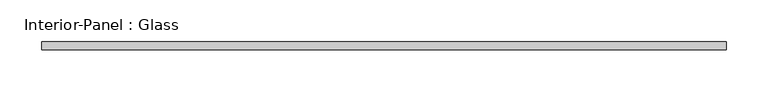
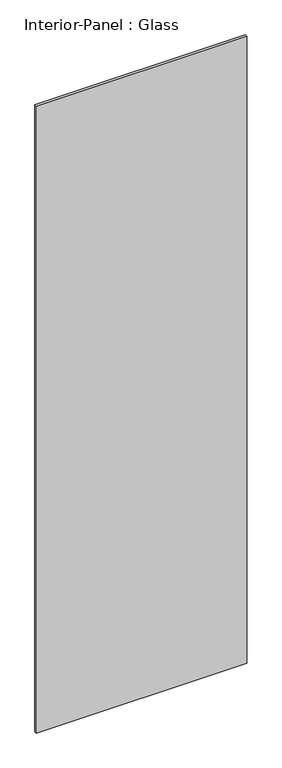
"""IFC4 building model written with IfcOpenShell, lengths in millimetres: plate geometry, Interior-Panel : Glass."""

from ifc_helpers import new_model, si_unit, origin, origin_with_axes, place, context, project, spatial, polyline, outline, extrude, source, transform, mapped, element, save


def interior_panel_glass_b2a39446(model_context):
    return source(origin(), model_context, "Body", "SweptSolid", [
        extrude(outline(polyline([(412.5, 50.0), (412.5, 40.0), (-412.5, 40.0), (-412.5, 50.0), (412.5, 50.0)])), origin_with_axes(), (0.0, 0.0, 1.0), 2600.0),
    ])


if __name__ == "__main__":
    model = new_model("IFC4")
    model_context = context("Model", 3, world=origin())
    ifc_project = project(units=[si_unit("LENGTHUNIT", "METRE", prefix="MILLI")], contexts=[model_context])
    site = spatial("IfcSite", under=ifc_project)
    building = spatial("IfcBuilding", under=site)
    placement = place(None, origin())
    interior_panel_glass_shape = interior_panel_glass_b2a39446(model_context)
    element("IfcPlate", 1, ObjectType="Interior-Panel : Glass", at=placement, inside=building, context=model_context, shape_type="MappedRepresentation", body=[
        mapped(interior_panel_glass_shape, transform((0.0, 0.0, 0.0), x_axis=(1.0, 0.0, 0.0), y_axis=(0.0, 1.0, 0.0), z_axis=(0.0, 0.0, 1.0))),
    ])
    save(model, "model.ifc")
